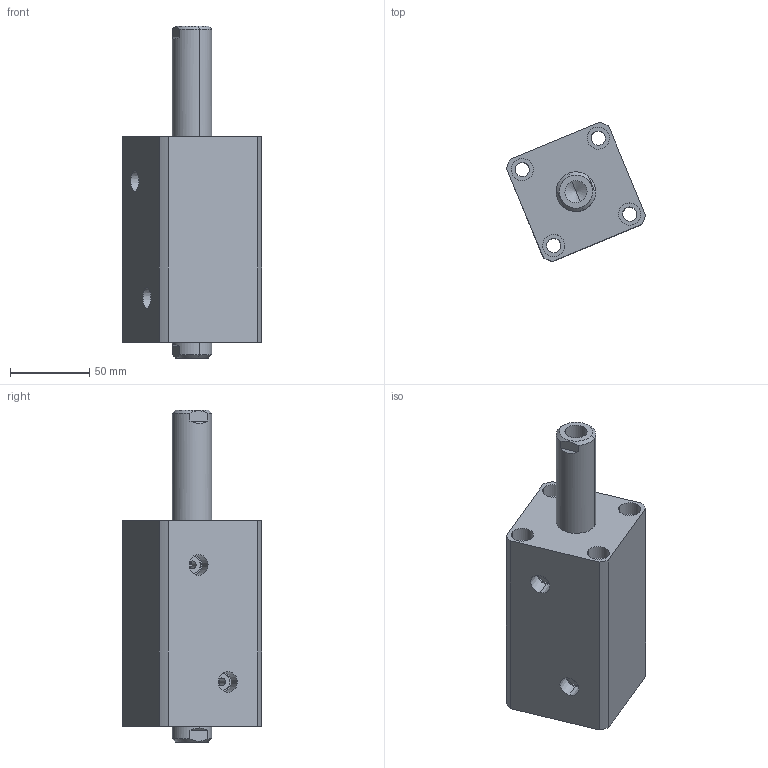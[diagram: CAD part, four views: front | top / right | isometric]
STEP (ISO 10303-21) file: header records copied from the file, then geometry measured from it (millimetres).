
FILE_DESCRIPTION (( 'STEP AP214' ), '1' );
FILE_NAME ('chtb-sw40x60n_asm.STEP', '2018-06-08T12:04:47', ( 'Windows' ), ( 'Microsoft' ), 'SwSTEP 2.0', 'SolidWorks 2015', '' );
FILE_SCHEMA (( 'AUTOMOTIVE_DESIGN' ));
Length unit declared in the file: millimetre
Products named in the file (4): CHTB-SW40X60NHSG; CHTB-SW40X60NBT; CHTB-SD40QG; chtb-sw40x60n_asm
Assembly tree (3 placements, depth 2):
  chtb-sw40x60n_asm
    CHTB-SD40QG
    CHTB-SW40X60NBT
    CHTB-SW40X60NHSG
Bounding box: 88.11 x 88.11 x 210 mm (x, y, z)
Volume: 573203.9 mm3; surface area: 107980.3 mm2
Topology: 3 solids, 3 shells, 167 faces, 429 edges, 282 vertices
Faces by surface type: cylinder 84, plane 40, cone 17, bspline 14, torus 12
Entity records: 10325 total; most frequent: CARTESIAN_POINT 6131, ORIENTED_EDGE 838, DIRECTION 822, EDGE_CURVE 419, AXIS2_PLACEMENT_3D 348, VERTEX_POINT 282, EDGE_LOOP 207, CIRCLE 189
